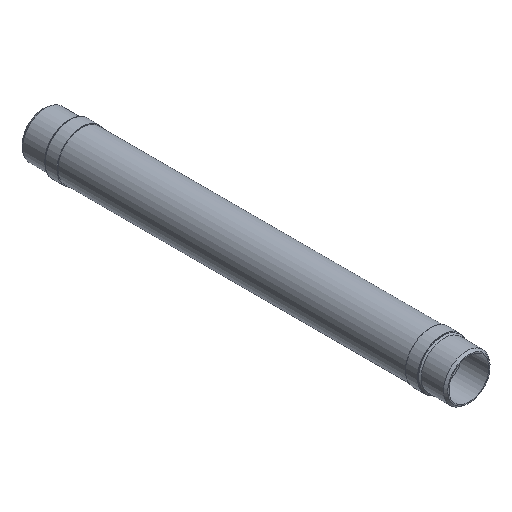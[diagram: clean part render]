
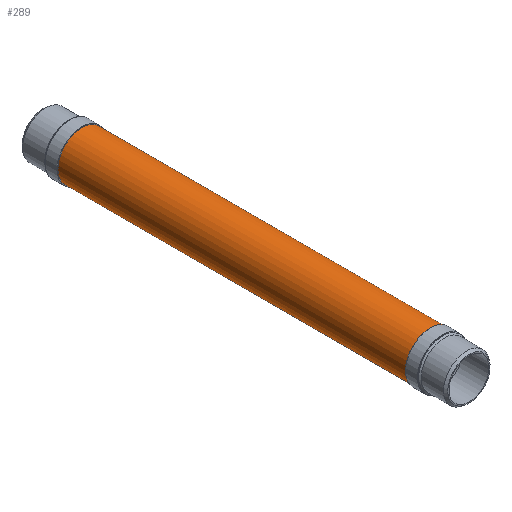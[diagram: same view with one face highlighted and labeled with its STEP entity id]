
A CAD part, isometric view. The second image highlights one B-rep face of the part: STEP entity #289.
In plain terms, the highlighted cylindrical face has radius 31.394 mm (diameter 62.789 mm), a full revolution.
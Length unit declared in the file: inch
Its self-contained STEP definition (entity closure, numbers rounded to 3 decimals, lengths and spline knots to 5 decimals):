
#34=FACE_BOUND('',#85,.T.);
#58=FACE_OUTER_BOUND('',#84,.T.);
#84=EDGE_LOOP('',(#204));
#85=EDGE_LOOP('',(#205));
#130=CIRCLE('',#321,1.236);
#131=CIRCLE('',#323,1.236);
#154=VERTEX_POINT('',#470);
#155=VERTEX_POINT('',#473);
#178=EDGE_CURVE('',#154,#154,#130,.T.);
#179=EDGE_CURVE('',#155,#155,#131,.T.);
#204=ORIENTED_EDGE('',*,*,#178,.T.);
#205=ORIENTED_EDGE('',*,*,#179,.T.);
#249=CYLINDRICAL_SURFACE('',#322,1.236);
#289=ADVANCED_FACE('',(#58,#34),#249,.T.);
#321=AXIS2_PLACEMENT_3D('',#471,#375,#376);
#322=AXIS2_PLACEMENT_3D('',#472,#377,#378);
#323=AXIS2_PLACEMENT_3D('',#474,#379,#380);
#375=DIRECTION('center_axis',(0.,1.,0.));
#376=DIRECTION('ref_axis',(-0.535,0.,0.845));
#377=DIRECTION('center_axis',(0.,1.,0.));
#378=DIRECTION('ref_axis',(-0.535,0.,0.845));
#379=DIRECTION('center_axis',(0.,-1.,0.));
#380=DIRECTION('ref_axis',(-0.535,0.,0.845));
#470=CARTESIAN_POINT('',(0.66146,1.375,-1.04411));
#471=CARTESIAN_POINT('Origin',(0.,1.375,0.));
#472=CARTESIAN_POINT('Origin',(0.,11.,0.));
#473=CARTESIAN_POINT('',(0.66146,20.625,-1.04411));
#474=CARTESIAN_POINT('Origin',(0.,20.625,0.));
